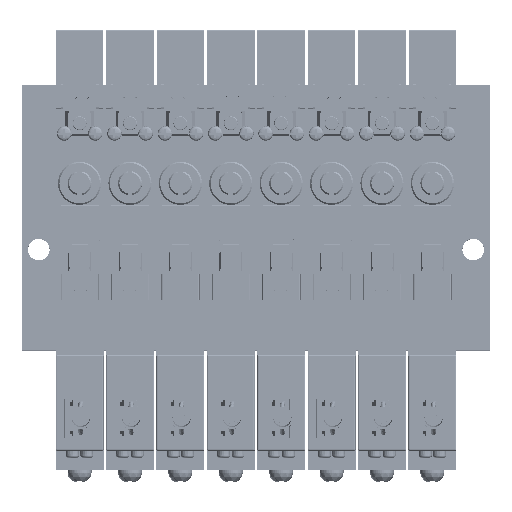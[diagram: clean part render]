
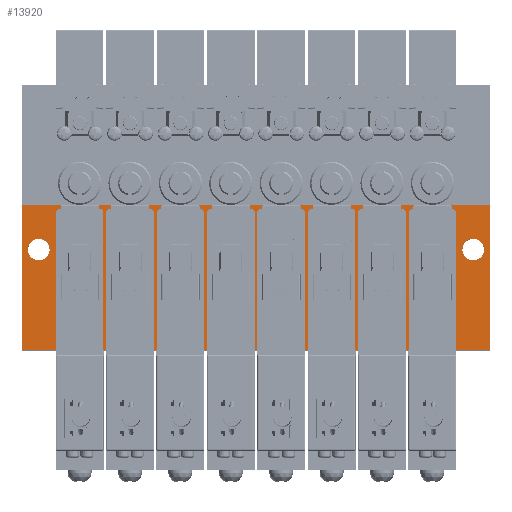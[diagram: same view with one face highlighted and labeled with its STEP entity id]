
A CAD part, top view. The second image highlights one B-rep face of the part: STEP entity #13920.
In plain terms, the highlighted planar face has unit normal (0, 0, 1).
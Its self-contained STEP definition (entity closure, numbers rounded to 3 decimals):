
#13920=ADVANCED_FACE('',(#24200,#24201,#24202),#24203,.F.);
#24200=FACE_BOUND('',#45128,.T.);
#24201=FACE_BOUND('',#45129,.T.);
#24202=FACE_OUTER_BOUND('',#45130,.T.);
#24203=PLANE('',#45131);
#45128=EDGE_LOOP('',(#68960));
#45129=EDGE_LOOP('',(#68961));
#45130=EDGE_LOOP('',(#68962,#68963,#68964,#68965));
#45131=AXIS2_PLACEMENT_3D('',#68966,#68967,#68968);
#68960=ORIENTED_EDGE('',*,*,#149821,.F.);
#68961=ORIENTED_EDGE('',*,*,#149822,.F.);
#68962=ORIENTED_EDGE('',*,*,#149818,.F.);
#68963=ORIENTED_EDGE('',*,*,#149833,.F.);
#68964=ORIENTED_EDGE('',*,*,#149785,.T.);
#68965=ORIENTED_EDGE('',*,*,#149832,.T.);
#68966=CARTESIAN_POINT('',(-97.5,30.3,14.8));
#68967=DIRECTION('',(0.0,0.0,-1.0));
#68968=DIRECTION('',(1.0,0.0,0.0));
#149785=EDGE_CURVE('',#175862,#175860,#175863,.T.);
#149818=EDGE_CURVE('',#175921,#175923,#175924,.T.);
#149821=EDGE_CURVE('',#175928,#175928,#175929,.T.);
#149822=EDGE_CURVE('',#175930,#175930,#175931,.T.);
#149832=EDGE_CURVE('',#175860,#175923,#175949,.T.);
#149833=EDGE_CURVE('',#175862,#175921,#175950,.T.);
#175860=VERTEX_POINT('',#219611);
#175862=VERTEX_POINT('',#219614);
#175863=LINE('',#219615,#219616);
#175921=VERTEX_POINT('',#219687);
#175923=VERTEX_POINT('',#219690);
#175924=LINE('',#219691,#219692);
#175928=VERTEX_POINT('',#219698);
#175929=CIRCLE('',#219699,2.25);
#175930=VERTEX_POINT('',#219700);
#175931=CIRCLE('',#219701,2.25);
#175949=LINE('',#219720,#219721);
#175950=LINE('',#219722,#219723);
#219611=CARTESIAN_POINT('',(-97.5,0.,14.8));
#219614=CARTESIAN_POINT('',(-97.5,30.3,14.8));
#219615=CARTESIAN_POINT('',(-97.5,30.3,14.8));
#219616=VECTOR('',#289124,1.0);
#219687=CARTESIAN_POINT('',(0.0,30.3,14.8));
#219690=CARTESIAN_POINT('',(0.0,0.,14.8));
#219691=CARTESIAN_POINT('',(0.0,30.3,14.8));
#219692=VECTOR('',#289193,1.0);
#219698=CARTESIAN_POINT('',(-1.25,21.0,14.8));
#219699=AXIS2_PLACEMENT_3D('',#289196,#289197,#289198);
#219700=CARTESIAN_POINT('',(-91.75,21.0,14.8));
#219701=AXIS2_PLACEMENT_3D('',#289199,#289200,#289201);
#219720=CARTESIAN_POINT('',(-97.5,0.,14.8));
#219721=VECTOR('',#289227,1.0);
#219722=CARTESIAN_POINT('',(-97.5,30.3,14.8));
#219723=VECTOR('',#289228,1.0);
#289124=DIRECTION('',(0.0,-1.0,0.0));
#289193=DIRECTION('',(0.0,-1.0,0.0));
#289196=CARTESIAN_POINT('',(-3.5,21.0,14.8));
#289197=DIRECTION('',(0.0,0.0,1.0));
#289198=DIRECTION('',(1.0,0.0,0.0));
#289199=CARTESIAN_POINT('',(-94.0,21.0,14.8));
#289200=DIRECTION('',(0.0,0.0,1.0));
#289201=DIRECTION('',(1.0,0.0,0.0));
#289227=DIRECTION('',(1.0,0.0,0.0));
#289228=DIRECTION('',(1.0,0.0,0.0));
